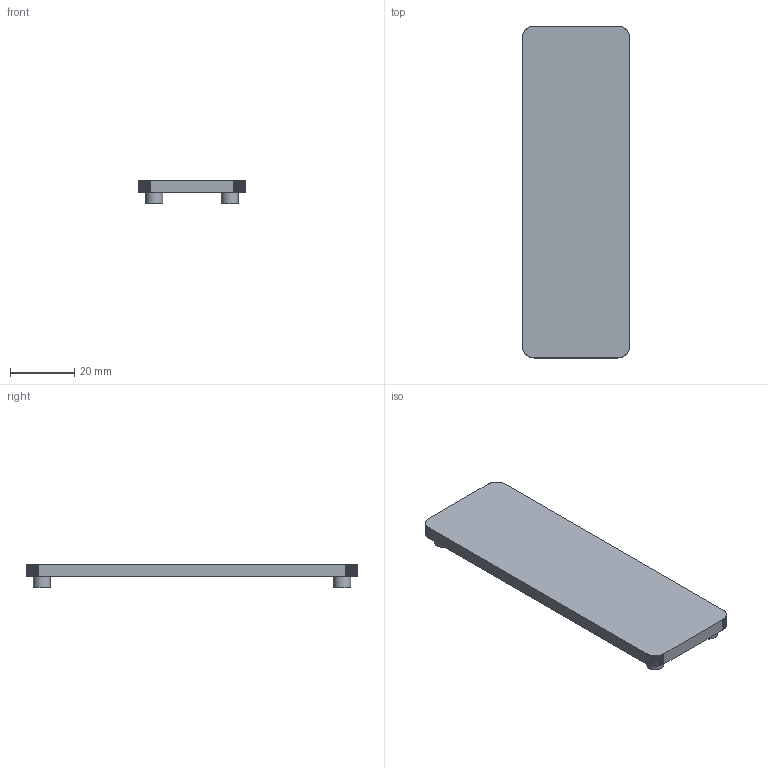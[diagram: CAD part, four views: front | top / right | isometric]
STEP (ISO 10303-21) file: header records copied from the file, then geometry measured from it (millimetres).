
FILE_DESCRIPTION(('Designed by EasyEDA Pro'),'2;1');
FILE_NAME('Open CASCADE Shape Model','2026-10-25T13:24:12',('Author'),( 'Open CASCADE'),'Open CASCADE STEP processor 7.8','Open CASCADE 7.8' ,'Unknown');
FILE_SCHEMA(('AUTOMOTIVE_DESIGN { 1 0 10303 214 1 1 1 1 }'));
Length unit declared in the file: millimetre
Products named in the file (1): Open CASCADE STEP translator 7.8 1
Bounding box: 33.5 x 103.5 x 7.4 mm (x, y, z)
Volume: 5942.3 mm3; surface area: 9058.2 mm2
Topology: 1 solids, 1 shells, 234 faces, 672 edges, 448 vertices
Faces by surface type: bspline 234
Entity records: 18652 total; most frequent: CARTESIAN_POINT 9883, B_SPLINE_CURVE_WITH_KNOTS 1984, ORIENTED_EDGE 1344, PCURVE 1344, DEFINITIONAL_REPRESENTATION 1344, EDGE_CURVE 672, SURFACE_CURVE 664, VERTEX_POINT 448
